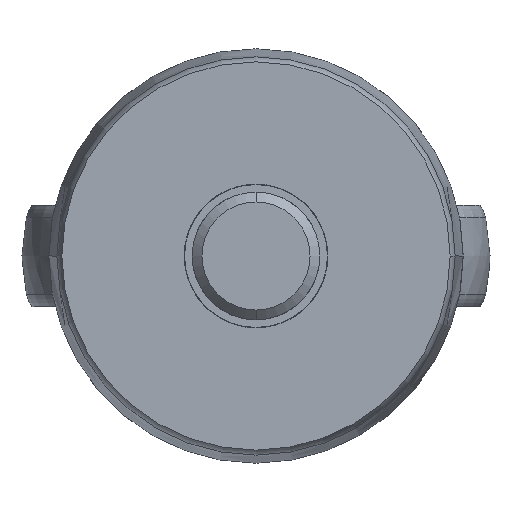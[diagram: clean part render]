
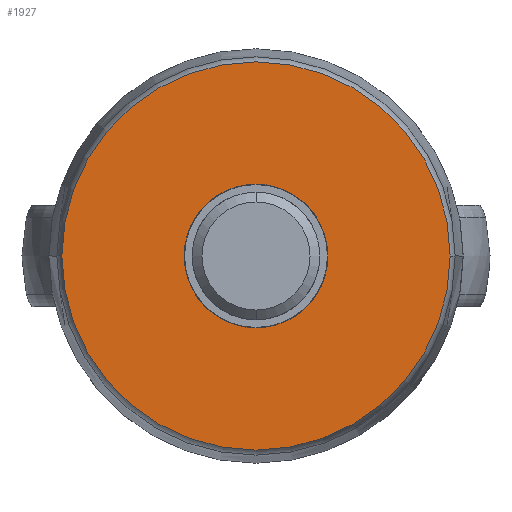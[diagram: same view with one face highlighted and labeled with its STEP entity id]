
A CAD part, front view. The second image highlights one B-rep face of the part: STEP entity #1927.
In plain terms, the highlighted planar face has unit normal (0, -1, 0).
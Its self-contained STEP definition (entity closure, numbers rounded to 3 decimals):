
#1797=CARTESIAN_POINT('Vertex',(-36.5,0.,0.)) ;
#1804=CARTESIAN_POINT('Vertex',(36.5,0.,0.)) ;
#1807=CARTESIAN_POINT('Axis2P3D Location',(0.,0.,0.)) ;
#1824=CARTESIAN_POINT('Axis2P3D Location',(0.,0.,0.)) ;
#1836=CARTESIAN_POINT('Axis2P3D Location',(36.5,0.,0.)) ;
#1846=CARTESIAN_POINT('Control Point',(0.,0.,-13.5)) ;
#1847=CARTESIAN_POINT('Control Point',(0.799,0.,-13.5)) ;
#1848=CARTESIAN_POINT('Control Point',(1.598,0.,-13.441)) ;
#1849=CARTESIAN_POINT('Control Point',(2.391,0.,-13.323)) ;
#1850=CARTESIAN_POINT('Control Point',(4.405,0.,-12.868)) ;
#1851=CARTESIAN_POINT('Control Point',(6.304,0.,-12.038)) ;
#1852=CARTESIAN_POINT('Control Point',(7.402,0.,-11.396)) ;
#1853=CARTESIAN_POINT('Control Point',(9.427,0.,-9.868)) ;
#1854=CARTESIAN_POINT('Control Point',(11.046,0.,-7.915)) ;
#1855=CARTESIAN_POINT('Control Point',(11.737,0.,-6.847)) ;
#1856=CARTESIAN_POINT('Control Point',(12.708,0.,-4.877)) ;
#1857=CARTESIAN_POINT('Control Point',(13.264,0.,-2.758)) ;
#1858=CARTESIAN_POINT('Control Point',(13.421,0.,-1.845)) ;
#1859=CARTESIAN_POINT('Control Point',(13.5,0.,-0.922)) ;
#1860=CARTESIAN_POINT('Control Point',(13.5,0.,0.)) ;
#1861=CARTESIAN_POINT('Vertex',(0.,0.,-13.5)) ;
#1863=CARTESIAN_POINT('Vertex',(13.5,0.,0.)) ;
#1867=CARTESIAN_POINT('Control Point',(-13.5,0.,0.)) ;
#1868=CARTESIAN_POINT('Control Point',(-13.5,0.,-1.26)) ;
#1869=CARTESIAN_POINT('Control Point',(-13.353,0.,-2.52)) ;
#1870=CARTESIAN_POINT('Control Point',(-13.059,0.,-3.757)) ;
#1871=CARTESIAN_POINT('Control Point',(-12.188,0.,-6.14)) ;
#1872=CARTESIAN_POINT('Control Point',(-10.791,0.,-8.258)) ;
#1873=CARTESIAN_POINT('Control Point',(-9.972,0.,-9.231)) ;
#1874=CARTESIAN_POINT('Control Point',(-8.122,0.,-10.967)) ;
#1875=CARTESIAN_POINT('Control Point',(-5.922,0.,-12.23)) ;
#1876=CARTESIAN_POINT('Control Point',(-4.753,0.,-12.73)) ;
#1877=CARTESIAN_POINT('Control Point',(-3.091,0.,-13.221)) ;
#1878=CARTESIAN_POINT('Control Point',(-1.382,0.,-13.441)) ;
#1879=CARTESIAN_POINT('Control Point',(-0.922,0.,-13.48)) ;
#1880=CARTESIAN_POINT('Control Point',(-0.461,0.,-13.5)) ;
#1881=CARTESIAN_POINT('Control Point',(0.,0.,-13.5)) ;
#1882=CARTESIAN_POINT('Vertex',(-13.5,0.,0.)) ;
#1886=CARTESIAN_POINT('Control Point',(0.,0.,13.5)) ;
#1887=CARTESIAN_POINT('Control Point',(-0.799,0.,13.5)) ;
#1888=CARTESIAN_POINT('Control Point',(-1.598,0.,13.441)) ;
#1889=CARTESIAN_POINT('Control Point',(-2.391,0.,13.323)) ;
#1890=CARTESIAN_POINT('Control Point',(-4.405,0.,12.868)) ;
#1891=CARTESIAN_POINT('Control Point',(-6.304,0.,12.038)) ;
#1892=CARTESIAN_POINT('Control Point',(-7.402,0.,11.396)) ;
#1893=CARTESIAN_POINT('Control Point',(-9.427,0.,9.868)) ;
#1894=CARTESIAN_POINT('Control Point',(-11.046,0.,7.915)) ;
#1895=CARTESIAN_POINT('Control Point',(-11.737,0.,6.847)) ;
#1896=CARTESIAN_POINT('Control Point',(-12.708,0.,4.877)) ;
#1897=CARTESIAN_POINT('Control Point',(-13.264,0.,2.758)) ;
#1898=CARTESIAN_POINT('Control Point',(-13.421,0.,1.845)) ;
#1899=CARTESIAN_POINT('Control Point',(-13.5,0.,0.922)) ;
#1900=CARTESIAN_POINT('Control Point',(-13.5,0.,0.)) ;
#1901=CARTESIAN_POINT('Vertex',(0.,0.,13.5)) ;
#1905=CARTESIAN_POINT('Control Point',(13.5,0.,0.)) ;
#1906=CARTESIAN_POINT('Control Point',(13.5,0.,1.26)) ;
#1907=CARTESIAN_POINT('Control Point',(13.353,0.,2.52)) ;
#1908=CARTESIAN_POINT('Control Point',(13.059,0.,3.757)) ;
#1909=CARTESIAN_POINT('Control Point',(12.188,0.,6.14)) ;
#1910=CARTESIAN_POINT('Control Point',(10.791,0.,8.258)) ;
#1911=CARTESIAN_POINT('Control Point',(9.972,0.,9.231)) ;
#1912=CARTESIAN_POINT('Control Point',(8.122,0.,10.967)) ;
#1913=CARTESIAN_POINT('Control Point',(5.922,0.,12.23)) ;
#1914=CARTESIAN_POINT('Control Point',(4.753,0.,12.73)) ;
#1915=CARTESIAN_POINT('Control Point',(3.091,0.,13.221)) ;
#1916=CARTESIAN_POINT('Control Point',(1.382,0.,13.441)) ;
#1917=CARTESIAN_POINT('Control Point',(0.922,0.,13.48)) ;
#1918=CARTESIAN_POINT('Control Point',(0.461,0.,13.5)) ;
#1919=CARTESIAN_POINT('Control Point',(0.,0.,13.5)) ;
#1808=DIRECTION('Axis2P3D Direction',(0.,1.,0.)) ;
#1825=DIRECTION('Axis2P3D Direction',(0.,1.,0.)) ;
#1837=DIRECTION('Axis2P3D Direction',(0.,1.,0.)) ;
#1838=DIRECTION('Axis2P3D XDirection',(-1.,0.,0.)) ;
#1809=AXIS2_PLACEMENT_3D('Circle Axis2P3D',#1807,#1808,$) ;
#1826=AXIS2_PLACEMENT_3D('Circle Axis2P3D',#1824,#1825,$) ;
#1839=AXIS2_PLACEMENT_3D('Plane Axis2P3D',#1836,#1837,#1838) ;
#1842=ORIENTED_EDGE('',*,*,#1828,.T.) ;
#1843=ORIENTED_EDGE('',*,*,#1811,.T.) ;
#1922=ORIENTED_EDGE('',*,*,#1865,.F.) ;
#1923=ORIENTED_EDGE('',*,*,#1884,.F.) ;
#1924=ORIENTED_EDGE('',*,*,#1903,.F.) ;
#1925=ORIENTED_EDGE('',*,*,#1920,.F.) ;
#1926=FACE_BOUND('',#1921,.T.) ;
#1927=ADVANCED_FACE('_C817XC24',(#1844,#1926),#1840,.F.) ;
#1845=B_SPLINE_CURVE_WITH_KNOTS('',5,(#1846,#1847,#1848,#1849,#1850,#1851,#1852,#1853,#1854,#1855,#1856,#1857,#1858,#1859,#1860),.UNSPECIFIED.,.F.,.U.,(6,3,3,3,6),(29.989,35.638,44.547,53.457,59.978),.UNSPECIFIED.) ;
#1866=B_SPLINE_CURVE_WITH_KNOTS('',5,(#1867,#1868,#1869,#1870,#1871,#1872,#1873,#1874,#1875,#1876,#1877,#1878,#1879,#1880,#1881),.UNSPECIFIED.,.F.,.U.,(6,3,3,3,6),(0.,8.909,17.819,26.728,29.989),.UNSPECIFIED.) ;
#1885=B_SPLINE_CURVE_WITH_KNOTS('',5,(#1886,#1887,#1888,#1889,#1890,#1891,#1892,#1893,#1894,#1895,#1896,#1897,#1898,#1899,#1900),.UNSPECIFIED.,.F.,.U.,(6,3,3,3,6),(29.989,35.638,44.547,53.457,59.978),.UNSPECIFIED.) ;
#1904=B_SPLINE_CURVE_WITH_KNOTS('',5,(#1905,#1906,#1907,#1908,#1909,#1910,#1911,#1912,#1913,#1914,#1915,#1916,#1917,#1918,#1919),.UNSPECIFIED.,.F.,.U.,(6,3,3,3,6),(0.,8.909,17.819,26.728,29.989),.UNSPECIFIED.) ;
#1810=CIRCLE('generated circle',#1809,36.5) ;
#1827=CIRCLE('generated circle',#1826,36.5) ;
#1811=EDGE_CURVE('',#1798,#1805,#1810,.F.) ;
#1828=EDGE_CURVE('',#1805,#1798,#1827,.F.) ;
#1865=EDGE_CURVE('',#1862,#1864,#1845,.T.) ;
#1884=EDGE_CURVE('',#1883,#1862,#1866,.T.) ;
#1903=EDGE_CURVE('',#1902,#1883,#1885,.T.) ;
#1920=EDGE_CURVE('',#1864,#1902,#1904,.T.) ;
#1841=EDGE_LOOP('',(#1842,#1843)) ;
#1921=EDGE_LOOP('',(#1922,#1923,#1924,#1925)) ;
#1844=FACE_OUTER_BOUND('',#1841,.T.) ;
#1840=PLANE('Plane',#1839) ;
#1798=VERTEX_POINT('',#1797) ;
#1805=VERTEX_POINT('',#1804) ;
#1862=VERTEX_POINT('',#1861) ;
#1864=VERTEX_POINT('',#1863) ;
#1883=VERTEX_POINT('',#1882) ;
#1902=VERTEX_POINT('',#1901) ;
